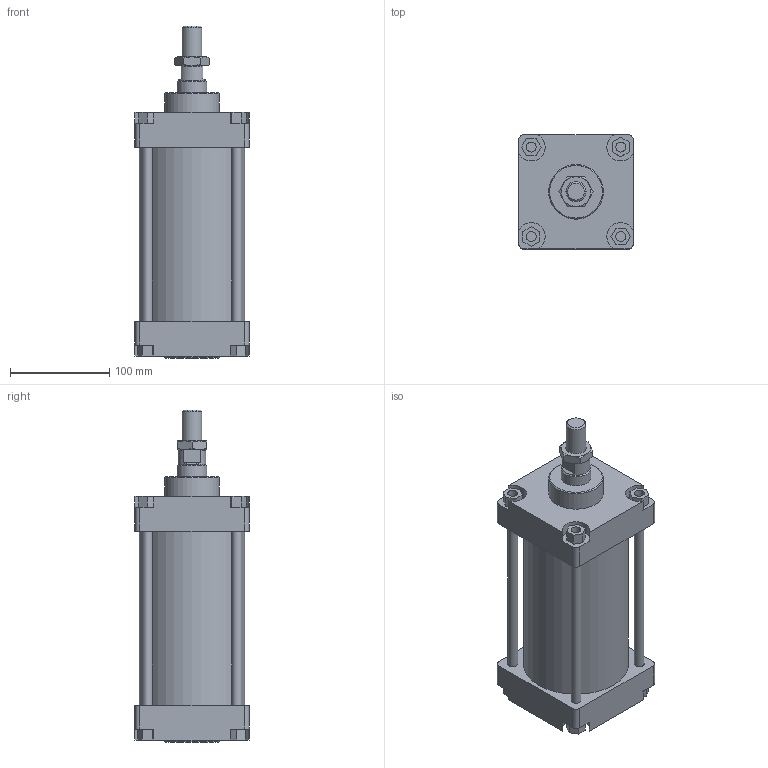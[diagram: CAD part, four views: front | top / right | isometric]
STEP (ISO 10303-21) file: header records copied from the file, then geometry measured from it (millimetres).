
FILE_DESCRIPTION(/* description */ (''),/* implementation_level */ '2;1');
FILE_NAME(/* name */ 'I:\Area Tecnica\Disegni\VARIE-3D\Componenti\CSP\Ø100\130#_100_####_###\130#_100_0100_01A.stp',/* time_stamp */ '2016-11-24T13:51:01+01:00',/* author */ ('Maniean1'),/* organization */ ('Pneumax S.p.A.'),/* preprocessor_version */ 'ST-DEVELOPER v15.2',/* originating_system */ 'Autodesk Inventor 2014',/* authorisation */ '');
FILE_SCHEMA (('AUTOMOTIVE_DESIGN { 1 0 10303 214 3 1 1 }'));
Length unit declared in the file: millimetre
Products named in the file (6): C_130#_100_0100; Testata anteriore_100; Testata posteriore_100; S_130#_100_0100_01A; 130#_100_18F; 130#_100_0100_01A
Bounding box: 115 x 115 x 334 mm (x, y, z)
Volume: 1804560.7 mm3; surface area: 310645 mm2
Topology: 9 solids, 9 shells, 162 faces, 380 edges, 249 vertices
Faces by surface type: plane 105, cylinder 42, cone 15
Full cylindrical faces by diameter (mm): 10 x12, 18.376 x1, 18.5 x1, 19 x2, 20 x1, 28 x1, 30 x3, 55 x2, 100 x2, 106 x1
Entity records: 4530 total; most frequent: CARTESIAN_POINT 785, DIRECTION 764, ORIENTED_EDGE 672, EDGE_CURVE 336, AXIS2_PLACEMENT_3D 271, VERTEX_POINT 244, EDGE_LOOP 236, LINE 222
